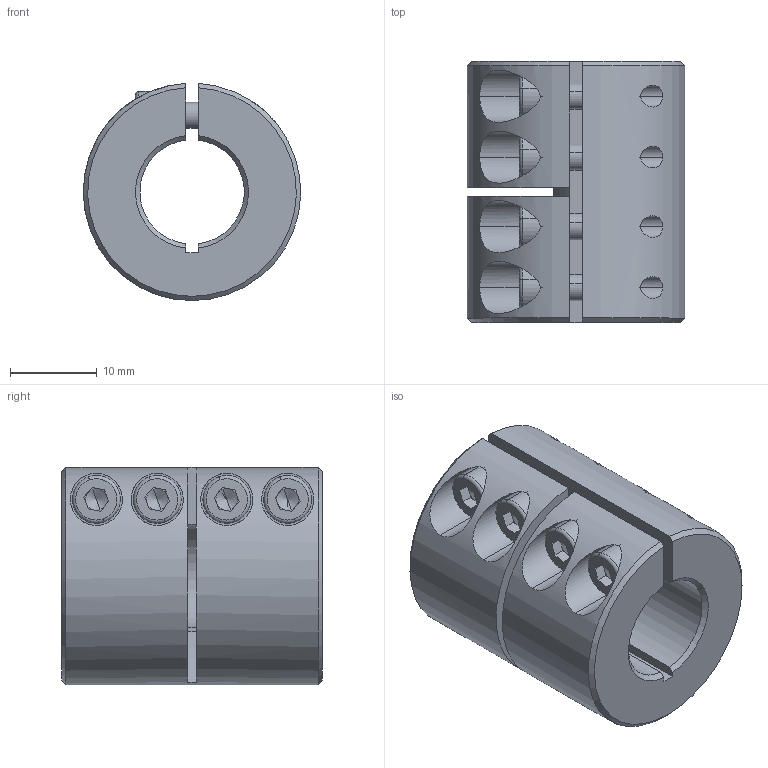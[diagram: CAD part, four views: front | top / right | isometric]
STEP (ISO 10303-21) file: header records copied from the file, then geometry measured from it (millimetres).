
FILE_DESCRIPTION (( 'STEP AP214' ), '1' );
FILE_NAME ('LL-B-D25L30-12-12½¨Ä£.STEP', '2022-07-21T03:21:09', ( '' ), ( '' ), 'SwSTEP 2.0', 'SolidWorks 2022', '' );
FILE_SCHEMA (( 'AUTOMOTIVE_DESIGN' ));
Length unit declared in the file: millimetre
Products named in the file (1): LL-B-D25L30-12-12膘耀
Bounding box: 24.99 x 30 x 24.98 mm (x, y, z)
Volume: 10391.5 mm3; surface area: 5862.4 mm2
Topology: 1 solids, 1 shells, 162 faces, 412 edges, 260 vertices
Faces by surface type: plane 82, cylinder 57, cone 15, torus 8
Entity records: 5334 total; most frequent: CARTESIAN_POINT 1351, DIRECTION 850, ORIENTED_EDGE 808, EDGE_CURVE 404, AXIS2_PLACEMENT_3D 327, VERTEX_POINT 260, VECTOR 196, LINE 196
